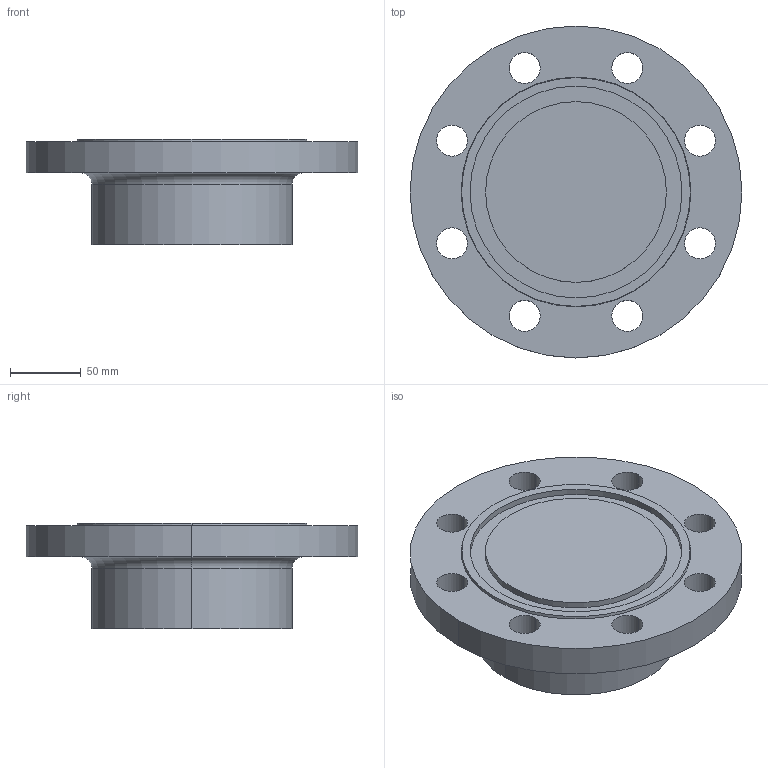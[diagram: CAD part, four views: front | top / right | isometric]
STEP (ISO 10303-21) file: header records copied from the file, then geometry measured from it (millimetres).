
FILE_DESCRIPTION (( 'STEP AP214' ), '1' );
FILE_NAME ('PN40 DN100 Type 21(i) - Type D Face.STEP', '2019-01-02T00:15:59', ( '' ), ( '' ), 'SwSTEP 2.0', 'SolidWorks 2019', '' );
FILE_SCHEMA (( 'AUTOMOTIVE_DESIGN' ));
Length unit declared in the file: millimetre
Products named in the file (1): PN40 DN100 Type 21(i) - Type D Face
Bounding box: 235 x 235 x 75 mm (x, y, z)
Volume: 1721060.6 mm3; surface area: 135105.6 mm2
Topology: 1 solids, 1 shells, 34 faces, 82 edges, 54 vertices
Faces by surface type: cylinder 24, plane 6, torus 2, cone 2
Entity records: 1092 total; most frequent: DIRECTION 208, CARTESIAN_POINT 171, ORIENTED_EDGE 164, AXIS2_PLACEMENT_3D 91, EDGE_CURVE 82, CIRCLE 56, EDGE_LOOP 54, VERTEX_POINT 54
